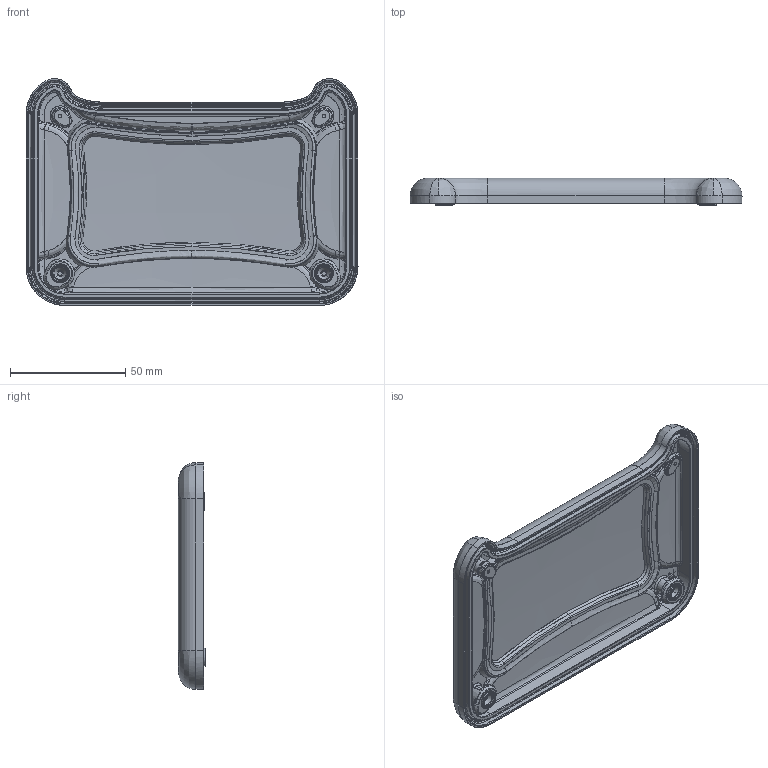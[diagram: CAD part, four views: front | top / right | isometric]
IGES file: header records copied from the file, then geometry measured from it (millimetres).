
Start section: SolidWorks IGES file using analytic representation for surfaces
Global section: file name: \\SBS\Data\NANUK\NANUK Marketing\NANUK Technical Drawings\3D Files\IGES\310\nano_310_top_INNER_SURFACES_assembly.IGS; native system: SolidWorks 2014; preprocessor: SolidWorks 2014; author: dposada; date: 150130.130905; units: millimetre
Bounding box: 143.88 x 11.81 x 98.27 mm (x, y, z)
Surface area: 42368.7 mm2 (no closed solid volume)
Topology: 0 solids, 0 shells, 1386 faces, 11089 edges, 11071 vertices
Faces by surface type: bspline 1040, revolution 346
